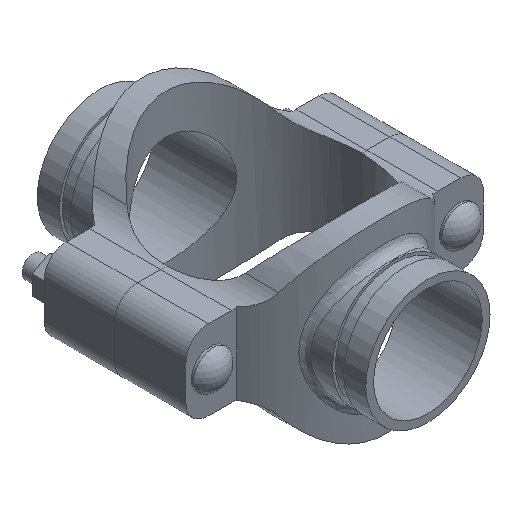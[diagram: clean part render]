
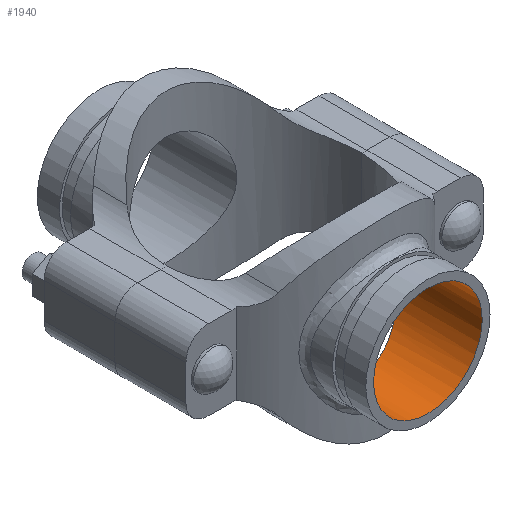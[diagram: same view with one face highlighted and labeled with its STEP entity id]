
A CAD part, isometric view. The second image highlights one B-rep face of the part: STEP entity #1940.
In plain terms, the highlighted cylindrical face has radius 38.894 mm (diameter 77.787 mm), a full revolution.
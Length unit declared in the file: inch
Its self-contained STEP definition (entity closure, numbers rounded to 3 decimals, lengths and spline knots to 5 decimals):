
#48=B_SPLINE_CURVE_WITH_KNOTS('',3,(#3884,#3885,#3886,#3887,#3888,#3889,
#3890,#3891,#3892,#3893,#3894,#3895,#3896,#3897,#3898,#3899,#3900,#3901,
#3902,#3903,#3904,#3905,#3906,#3907,#3908,#3909,#3910,#3911,#3912,#3913,
#3914,#3915,#3916,#3917,#3918,#3919,#3920,#3921,#3922,#3923,#3924,#3925,
#3926,#3927,#3928,#3929,#3930,#3931,#3932,#3933,#3934,#3935,#3936,#3937,
#3938,#3939,#3940,#3941,#3942,#3943,#3944,#3945,#3946,#3947,#3948,#3949),
 .UNSPECIFIED.,.T.,.F.,(4,2,2,2,2,2,2,2,2,2,2,2,2,2,2,2,2,2,2,2,2,2,2,2,
2,2,2,2,2,2,2,2,4),(0.,0.75353,1.50707,2.2606,
3.01414,3.76428,4.51443,5.26457,6.01472,
6.76486,7.51501,8.26515,9.0153,9.76883,
10.52237,11.2759,12.02944,12.78297,13.53651,
14.29004,15.04358,15.79372,16.54387,17.29401,
18.04416,18.7943,19.54444,20.29459,21.04473,
21.79827,22.5518,23.30534,24.05887),
 .UNSPECIFIED.);
#91=CYLINDRICAL_SURFACE('',#2169,1.53125);
#206=FACE_OUTER_BOUND('',#326,.T.);
#326=EDGE_LOOP('',(#1552,#1553,#1554,#1555));
#474=LINE('',#3883,#620);
#620=VECTOR('',#2620,1.53125);
#716=CIRCLE('',#2170,1.53125);
#877=VERTEX_POINT('',#3880);
#878=VERTEX_POINT('',#3882);
#1116=EDGE_CURVE('',#877,#877,#716,.T.);
#1117=EDGE_CURVE('',#877,#878,#474,.T.);
#1118=EDGE_CURVE('',#878,#878,#48,.T.);
#1552=ORIENTED_EDGE('',*,*,#1116,.F.);
#1553=ORIENTED_EDGE('',*,*,#1117,.T.);
#1554=ORIENTED_EDGE('',*,*,#1118,.F.);
#1555=ORIENTED_EDGE('',*,*,#1117,.F.);
#1940=ADVANCED_FACE('',(#206),#91,.F.);
#2169=AXIS2_PLACEMENT_3D('',#3879,#2616,#2617);
#2170=AXIS2_PLACEMENT_3D('',#3881,#2618,#2619);
#2616=DIRECTION('center_axis',(0.,-1.,0.));
#2617=DIRECTION('ref_axis',(-1.,0.,0.));
#2618=DIRECTION('center_axis',(0.,-1.,0.));
#2619=DIRECTION('ref_axis',(-1.,0.,0.));
#2620=DIRECTION('',(0.,-1.,0.));
#3879=CARTESIAN_POINT('Origin',(0.,4.63,0.));
#3880=CARTESIAN_POINT('',(1.53125,4.63,0.));
#3881=CARTESIAN_POINT('Origin',(0.,4.63,0.));
#3882=CARTESIAN_POINT('',(1.53125,2.28424,0.));
#3883=CARTESIAN_POINT('',(1.53125,4.63,0.));
#3884=CARTESIAN_POINT('Ctrl Pts',(1.53125,2.28424,0.));
#3885=CARTESIAN_POINT('Ctrl Pts',(1.53125,2.28424,-0.09889));
#3886=CARTESIAN_POINT('Ctrl Pts',(1.52152,2.29086,-0.20015));
#3887=CARTESIAN_POINT('Ctrl Pts',(1.48162,2.31686,-0.39986));
#3888=CARTESIAN_POINT('Ctrl Pts',(1.45147,2.3362,-0.49832));
#3889=CARTESIAN_POINT('Ctrl Pts',(1.37278,2.38329,-0.68596));
#3890=CARTESIAN_POINT('Ctrl Pts',(1.32419,2.41101,-0.77534));
#3891=CARTESIAN_POINT('Ctrl Pts',(1.21265,2.46899,-0.94028));
#3892=CARTESIAN_POINT('Ctrl Pts',(1.14968,2.49921,-1.01583));
#3893=CARTESIAN_POINT('Ctrl Pts',(1.01614,2.55641,-1.14938));
#3894=CARTESIAN_POINT('Ctrl Pts',(0.94073,2.58555,-1.2123));
#3895=CARTESIAN_POINT('Ctrl Pts',(0.77574,2.63975,-1.32396));
#3896=CARTESIAN_POINT('Ctrl Pts',(0.68616,2.66476,-1.3727));
#3897=CARTESIAN_POINT('Ctrl Pts',(0.49807,2.70623,-1.45157));
#3898=CARTESIAN_POINT('Ctrl Pts',(0.39938,2.7227,-1.48176));
#3899=CARTESIAN_POINT('Ctrl Pts',(0.19957,2.74459,-1.5216));
#3900=CARTESIAN_POINT('Ctrl Pts',(0.09844,2.75,-1.53125));
#3901=CARTESIAN_POINT('Ctrl Pts',(-0.09844,2.75,-1.53125));
#3902=CARTESIAN_POINT('Ctrl Pts',(-0.19957,2.74459,-1.5216));
#3903=CARTESIAN_POINT('Ctrl Pts',(-0.39938,2.7227,-1.48176));
#3904=CARTESIAN_POINT('Ctrl Pts',(-0.49807,2.70623,-1.45157));
#3905=CARTESIAN_POINT('Ctrl Pts',(-0.68616,2.66476,-1.3727));
#3906=CARTESIAN_POINT('Ctrl Pts',(-0.77574,2.63975,-1.32396));
#3907=CARTESIAN_POINT('Ctrl Pts',(-0.94073,2.58555,-1.2123));
#3908=CARTESIAN_POINT('Ctrl Pts',(-1.01614,2.55641,-1.14938));
#3909=CARTESIAN_POINT('Ctrl Pts',(-1.14968,2.49921,-1.01583));
#3910=CARTESIAN_POINT('Ctrl Pts',(-1.21265,2.46899,-0.94028));
#3911=CARTESIAN_POINT('Ctrl Pts',(-1.32419,2.41101,-0.77534));
#3912=CARTESIAN_POINT('Ctrl Pts',(-1.37278,2.38329,-0.68596));
#3913=CARTESIAN_POINT('Ctrl Pts',(-1.45147,2.3362,-0.49832));
#3914=CARTESIAN_POINT('Ctrl Pts',(-1.48162,2.31686,-0.39986));
#3915=CARTESIAN_POINT('Ctrl Pts',(-1.52152,2.29086,-0.20015));
#3916=CARTESIAN_POINT('Ctrl Pts',(-1.53125,2.28424,-0.09889));
#3917=CARTESIAN_POINT('Ctrl Pts',(-1.53125,2.28424,0.09889));
#3918=CARTESIAN_POINT('Ctrl Pts',(-1.52152,2.29086,0.20015));
#3919=CARTESIAN_POINT('Ctrl Pts',(-1.48162,2.31686,0.39986));
#3920=CARTESIAN_POINT('Ctrl Pts',(-1.45147,2.3362,0.49832));
#3921=CARTESIAN_POINT('Ctrl Pts',(-1.37278,2.38329,0.68596));
#3922=CARTESIAN_POINT('Ctrl Pts',(-1.32419,2.41101,0.77534));
#3923=CARTESIAN_POINT('Ctrl Pts',(-1.21265,2.46899,0.94028));
#3924=CARTESIAN_POINT('Ctrl Pts',(-1.14968,2.49921,1.01583));
#3925=CARTESIAN_POINT('Ctrl Pts',(-1.01614,2.55641,1.14938));
#3926=CARTESIAN_POINT('Ctrl Pts',(-0.94073,2.58555,1.2123));
#3927=CARTESIAN_POINT('Ctrl Pts',(-0.77574,2.63975,1.32396));
#3928=CARTESIAN_POINT('Ctrl Pts',(-0.68616,2.66476,1.3727));
#3929=CARTESIAN_POINT('Ctrl Pts',(-0.49807,2.70623,1.45157));
#3930=CARTESIAN_POINT('Ctrl Pts',(-0.39938,2.7227,1.48176));
#3931=CARTESIAN_POINT('Ctrl Pts',(-0.19957,2.74459,1.5216));
#3932=CARTESIAN_POINT('Ctrl Pts',(-0.09844,2.75,1.53125));
#3933=CARTESIAN_POINT('Ctrl Pts',(0.09844,2.75,1.53125));
#3934=CARTESIAN_POINT('Ctrl Pts',(0.19957,2.74459,1.5216));
#3935=CARTESIAN_POINT('Ctrl Pts',(0.39938,2.7227,1.48176));
#3936=CARTESIAN_POINT('Ctrl Pts',(0.49807,2.70623,1.45157));
#3937=CARTESIAN_POINT('Ctrl Pts',(0.68616,2.66476,1.3727));
#3938=CARTESIAN_POINT('Ctrl Pts',(0.77574,2.63975,1.32396));
#3939=CARTESIAN_POINT('Ctrl Pts',(0.94073,2.58555,1.2123));
#3940=CARTESIAN_POINT('Ctrl Pts',(1.01614,2.55641,1.14938));
#3941=CARTESIAN_POINT('Ctrl Pts',(1.14968,2.49921,1.01583));
#3942=CARTESIAN_POINT('Ctrl Pts',(1.21265,2.46899,0.94028));
#3943=CARTESIAN_POINT('Ctrl Pts',(1.32419,2.41101,0.77534));
#3944=CARTESIAN_POINT('Ctrl Pts',(1.37278,2.38329,0.68596));
#3945=CARTESIAN_POINT('Ctrl Pts',(1.45147,2.3362,0.49832));
#3946=CARTESIAN_POINT('Ctrl Pts',(1.48162,2.31686,0.39986));
#3947=CARTESIAN_POINT('Ctrl Pts',(1.52152,2.29086,0.20015));
#3948=CARTESIAN_POINT('Ctrl Pts',(1.53125,2.28424,0.09889));
#3949=CARTESIAN_POINT('Ctrl Pts',(1.53125,2.28424,0.));
